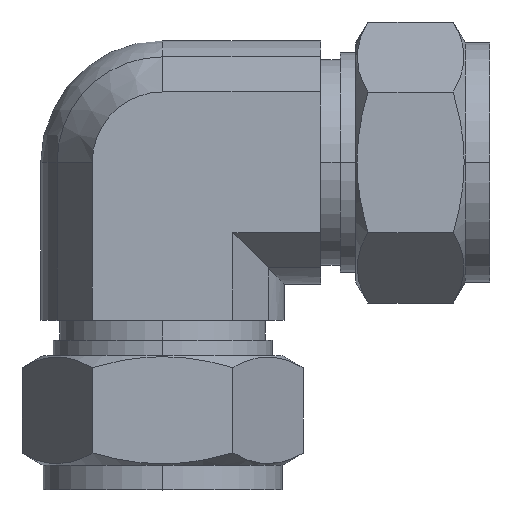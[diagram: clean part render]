
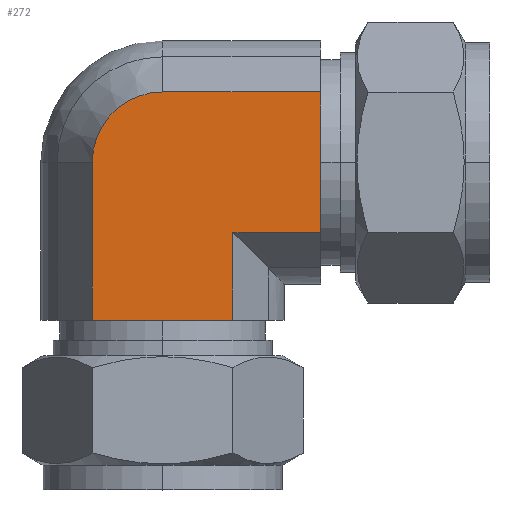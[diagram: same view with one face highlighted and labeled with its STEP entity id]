
A CAD part, top view. The second image highlights one B-rep face of the part: STEP entity #272.
In plain terms, the highlighted planar face has unit normal (0, 0, 1).
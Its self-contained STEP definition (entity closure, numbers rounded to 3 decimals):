
#1 = VERTEX_POINT ( 'NONE', #629 ) ;
#2 = ORIENTED_EDGE ( 'NONE', *, *, #3, .F. ) ;
#3 = EDGE_CURVE ( 'NONE', #4, #1, #628, .T. ) ;
#4 = VERTEX_POINT ( 'NONE', #624 ) ;
#5 = ORIENTED_EDGE ( 'NONE', *, *, #6, .T. ) ;
#6 = EDGE_CURVE ( 'NONE', #4, #20, #623, .T. ) ;
#20 = VERTEX_POINT ( 'NONE', #607 ) ;
#21 = ORIENTED_EDGE ( 'NONE', *, *, #22, .F. ) ;
#22 = EDGE_CURVE ( 'NONE', #23, #20, #781, .T. ) ;
#23 = VERTEX_POINT ( 'NONE', #776 ) ;
#24 = ORIENTED_EDGE ( 'NONE', *, *, #25, .F. ) ;
#25 = EDGE_CURVE ( 'NONE', #122, #23, #775, .T. ) ;
#26 = ORIENTED_EDGE ( 'NONE', *, *, #121, .F. ) ;
#121 = EDGE_CURVE ( 'NONE', #139, #122, #881, .T. ) ;
#122 = VERTEX_POINT ( 'NONE', #958 ) ;
#136 = VERTEX_POINT ( 'NONE', #990 ) ;
#138 = EDGE_CURVE ( 'NONE', #139, #136, #989, .T. ) ;
#139 = VERTEX_POINT ( 'NONE', #985 ) ;
#272 = ADVANCED_FACE ( 'NONE', ( #1293 ), #1292, .F. ) ;
#273 = EDGE_LOOP ( 'NONE', ( #274, #277, #2, #5, #21, #24, #26 ) ) ;
#274 = ORIENTED_EDGE ( 'NONE', *, *, #138, .T. ) ;
#277 = ORIENTED_EDGE ( 'NONE', *, *, #278, .F. ) ;
#278 = EDGE_CURVE ( 'NONE', #1, #136, #1290, .T. ) ;
#607 = CARTESIAN_POINT ( 'NONE',  ( 0., 9.18, 15.9 ) ) ;
#620 = DIRECTION ( 'NONE',  ( -1., 0., 0. ) ) ;
#621 = VECTOR ( 'NONE', #620, 1000. ) ;
#622 = CARTESIAN_POINT ( 'NONE',  ( 20.6, 9.18, 15.9 ) ) ;
#623 = LINE ( 'NONE', #622, #621 ) ;
#624 = CARTESIAN_POINT ( 'NONE',  ( 20.6, 9.18, 15.9 ) ) ;
#625 = DIRECTION ( 'NONE',  ( 0., -1., 0. ) ) ;
#626 = VECTOR ( 'NONE', #625, 1000. ) ;
#627 = CARTESIAN_POINT ( 'NONE',  ( 20.6, 9.18, 15.9 ) ) ;
#628 = LINE ( 'NONE', #627, #626 ) ;
#629 = CARTESIAN_POINT ( 'NONE',  ( 20.6, -9.18, 15.9 ) ) ;
#772 = DIRECTION ( 'NONE',  ( 0., 1., 0. ) ) ;
#773 = VECTOR ( 'NONE', #772, 1000. ) ;
#774 = CARTESIAN_POINT ( 'NONE',  ( -9.18, -20.6, 15.9 ) ) ;
#775 = LINE ( 'NONE', #774, #773 ) ;
#776 = CARTESIAN_POINT ( 'NONE',  ( -9.18, 0., 15.9 ) ) ;
#777 = DIRECTION ( 'NONE',  ( 0., 1., 0. ) ) ;
#778 = DIRECTION ( 'NONE',  ( 0., 0., -1. ) ) ;
#779 = CARTESIAN_POINT ( 'NONE',  ( 0., 0., 15.9 ) ) ;
#780 = AXIS2_PLACEMENT_3D ( 'NONE', #779, #778, #777 ) ;
#781 = CIRCLE ( 'NONE', #780, 9.18 ) ;
#880 = CARTESIAN_POINT ( 'NONE',  ( 9.18, -20.6, 15.9 ) ) ;
#881 = LINE ( 'NONE', #880, #960 ) ;
#958 = CARTESIAN_POINT ( 'NONE',  ( -9.18, -20.6, 15.9 ) ) ;
#959 = DIRECTION ( 'NONE',  ( -1., 0., 0. ) ) ;
#960 = VECTOR ( 'NONE', #959, 1000. ) ;
#985 = CARTESIAN_POINT ( 'NONE',  ( 9.18, -20.6, 15.9 ) ) ;
#986 = DIRECTION ( 'NONE',  ( 0., 1., 0. ) ) ;
#987 = VECTOR ( 'NONE', #986, 1000. ) ;
#988 = CARTESIAN_POINT ( 'NONE',  ( 9.18, -20.6, 15.9 ) ) ;
#989 = LINE ( 'NONE', #988, #987 ) ;
#990 = CARTESIAN_POINT ( 'NONE',  ( 9.18, -9.18, 15.9 ) ) ;
#1284 = DIRECTION ( 'NONE',  ( -1., 0., 0. ) ) ;
#1285 = VECTOR ( 'NONE', #1284, 1000. ) ;
#1286 = CARTESIAN_POINT ( 'NONE',  ( 20.6, -9.18, 15.9 ) ) ;
#1287 = DIRECTION ( 'NONE',  ( 0., 1., 0. ) ) ;
#1288 = DIRECTION ( 'NONE',  ( 0., 0., -1. ) ) ;
#1289 = AXIS2_PLACEMENT_3D ( 'NONE', #1291, #1288, #1287 ) ;
#1290 = LINE ( 'NONE', #1286, #1285 ) ;
#1291 = CARTESIAN_POINT ( 'NONE',  ( 9.18, -20.6, 15.9 ) ) ;
#1292 = PLANE ( 'NONE',  #1289 ) ;
#1293 = FACE_OUTER_BOUND ( 'NONE', #273, .T. ) ;
